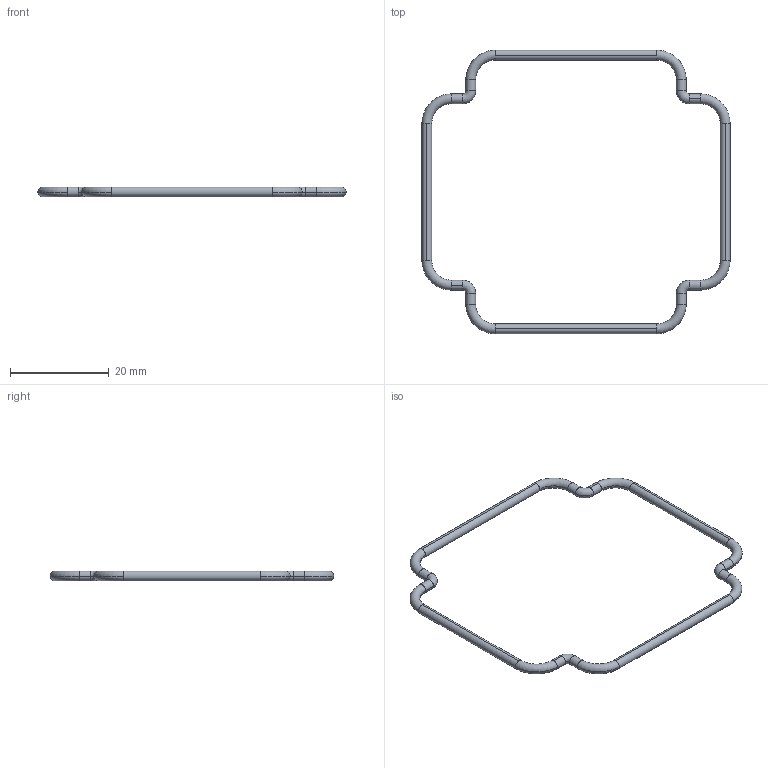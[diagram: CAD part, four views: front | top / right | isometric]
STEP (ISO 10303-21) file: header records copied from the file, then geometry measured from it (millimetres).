
FILE_DESCRIPTION (( 'STEP AP214' ), '1' );
FILE_NAME ('JuntaPP74.STEP', '2018-01-04T15:52:14', ( 'aaa' ), ( '' ), 'SwSTEP 2.0', 'SolidWorks 2013', '' );
FILE_SCHEMA (( 'AUTOMOTIVE_DESIGN' ));
Length unit declared in the file: millimetre
Products named in the file (1): JuntaPP74
Bounding box: 62.5 x 57.5 x 2 mm (x, y, z)
Volume: 666.3 mm3; surface area: 1332.6 mm2
Topology: 1 solids, 1 shells, 48 faces, 120 edges, 72 vertices
Faces by surface type: torus 24, cylinder 24
Entity records: 1506 total; most frequent: DIRECTION 314, CARTESIAN_POINT 241, ORIENTED_EDGE 240, AXIS2_PLACEMENT_3D 145, EDGE_CURVE 120, CIRCLE 96, VERTEX_POINT 72, FACE_OUTER_BOUND 48
